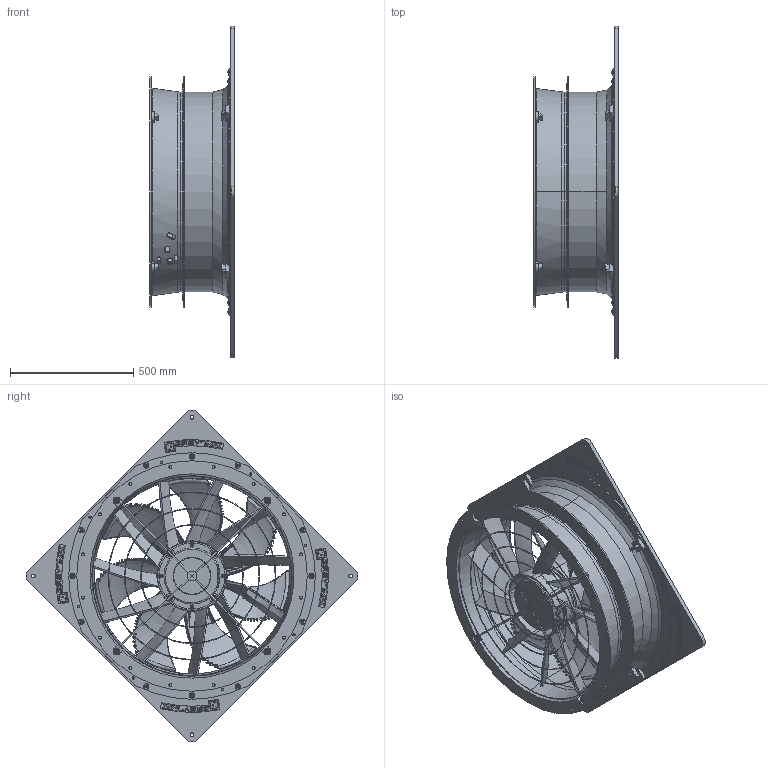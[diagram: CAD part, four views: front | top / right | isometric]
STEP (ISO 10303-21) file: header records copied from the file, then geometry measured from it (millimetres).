
FILE_DESCRIPTION((''),'2;1');
FILE_NAME('19080-QG14-02-00','2016-03-02T',('sassi'),(''),'CREO PARAMETRIC BY PTC INC, 2015290','CREO PARAMETRIC BY PTC INC, 2015290','');
FILE_SCHEMA(('AUTOMOTIVE_DESIGN { 1 0 10303 214 1 1 1 1 }'));
Length unit declared in the file: millimetre
Products named in the file (1): 19080-QG14-02-00
Bounding box: 343 x 1346.71 x 1346.71 mm (x, y, z)
Volume: 29729523.1 mm3; surface area: 5281257 mm2
Topology: 3 solids, 5 shells, 5164 faces, 13439 edges, 8352 vertices
Faces by surface type: bspline 2175, plane 1083, cylinder 872, cone 378, torus 374, extrusion 192, sphere 90
Entity records: 397634 total; most frequent: CARTESIAN_POINT 258402, ORIENTED_EDGE 26738, DIRECTION 15881, EDGE_CURVE 13369, VERTEX_POINT 8352, B_SPLINE_CURVE_WITH_KNOTS 6757, AXIS2_PLACEMENT_3D 6088, EDGE_LOOP 5497
